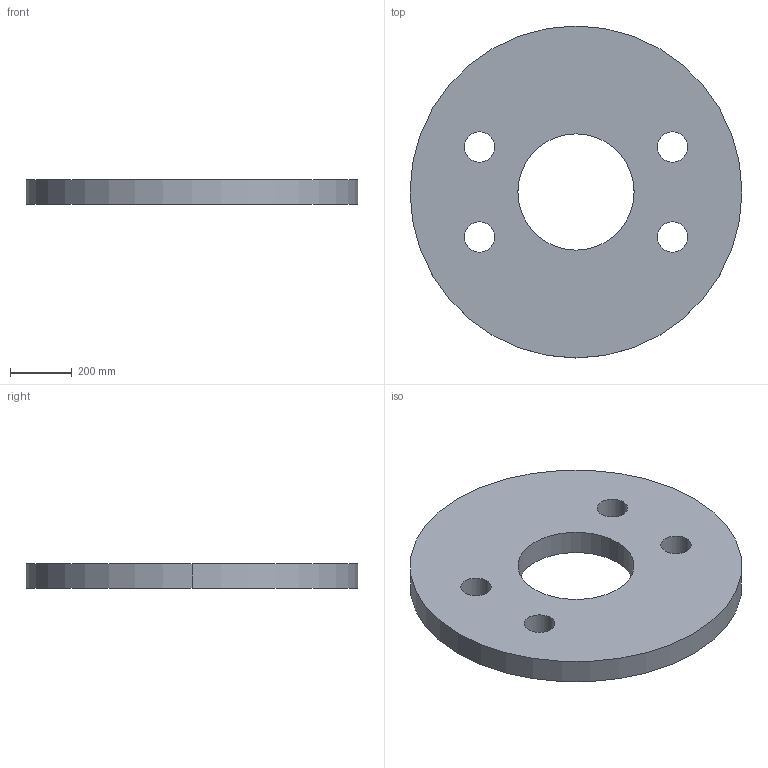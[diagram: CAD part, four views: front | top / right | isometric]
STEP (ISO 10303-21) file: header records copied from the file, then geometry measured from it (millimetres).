
FILE_DESCRIPTION (( 'STEP AP203' ), '1' );
FILE_NAME ('Kreissscheibe M90.STEP', '2018-02-22T05:56:22', ( 'install' ), ( 'Hewlett-Packard Company' ), 'SwSTEP 2.0', 'SolidWorks 2017', '' );
FILE_SCHEMA (( 'CONFIG_CONTROL_DESIGN' ));
Length unit declared in the file: millimetre
Products named in the file (1): Kreissscheibe M90
Bounding box: 1071 x 1071 x 80 mm (x, y, z)
Volume: 60821233.8 mm3; surface area: 1982470.6 mm2
Topology: 1 solids, 1 shells, 14 faces, 36 edges, 24 vertices
Faces by surface type: cylinder 12, plane 2
Entity records: 541 total; most frequent: DIRECTION 90, CARTESIAN_POINT 75, ORIENTED_EDGE 72, AXIS2_PLACEMENT_3D 39, EDGE_CURVE 36, CIRCLE 24, VERTEX_POINT 24, EDGE_LOOP 24
